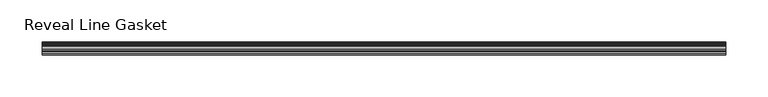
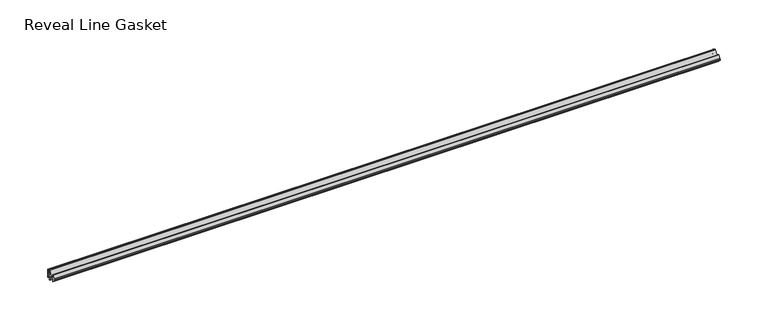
"""IFC4 building model written with IfcOpenShell, lengths in millimetres: proxy geometry, Accessories-Teknion-FHGR-AI_Healthcare-Reveal_Line_Gasket(Horizontal)-R2022 : Reveal Line Gasket."""

from ifc_helpers import new_model, si_unit, point, frame, frame_2d, origin, place, context, project, spatial, polyline, circle_curve, trimmed, segment, composite_curve, outline, extrude, source, transform, mapped, element, save


def reveal_line_gasket_4c97e5b9(model_context):
    return source(origin(), model_context, "Body", "SweptSolid", [
        extrude(outline(composite_curve([segment(polyline([(7.6326998, 1603.2), (7.6326998, 1597.2), (7.4091917, 1596.2445073), (6.8813059, 1595.3115316)]), True, "CONTINUOUS"), segment(trimmed(circle_curve(frame_2d((6.5243141, 1595.5135207)), 0.4101739), [point((6.8813059, 1595.3115316))], [point((6.1246704, 1595.6058653))], False, "CARTESIAN"), True, "CONTINUOUS"), segment(polyline([(6.1246704, 1595.6058653), (6.3626997, 1597.3020914), (6.3626997, 1599.3345473)]), True, "CONTINUOUS"), segment(trimmed(circle_curve(frame_2d((5.6959605, 1598.9180742)), 0.786124), [point((6.3626997, 1599.3345473))], [point((5.0926996, 1599.422125))], True, "CARTESIAN"), True, "CONTINUOUS"), segment(polyline([(5.0926996, 1599.422125), (0.7492996, 1599.422125), (3.7293824, 1594.2604705)]), True, "CONTINUOUS"), segment(trimmed(circle_curve(frame_2d((3.3132479, 1594.1950239)), 0.4212495), [point((3.7293824, 1594.2604705))], [point((3.0485022, 1593.8673642))], False, "CARTESIAN"), True, "CONTINUOUS"), segment(polyline([(3.0485022, 1593.8673642), (-0.5742594, 1599.422125), (-4.8262978, 1599.422125), (-3.1660374, 1596.5464703)]), True, "CONTINUOUS"), segment(trimmed(circle_curve(frame_2d((-3.5978728, 1596.4881145)), 0.4357605), [point((-3.1660374, 1596.5464703))], [point((-3.864328, 1596.1433119))], False, "CARTESIAN"), True, "CONTINUOUS"), segment(polyline([(-3.864328, 1596.1433119), (-6.1944059, 1599.422125), (-7.6326998, 1599.422125), (-7.6326998, 1600.977875), (-6.1944059, 1600.977875), (-3.864328, 1604.2566881)]), True, "CONTINUOUS"), segment(trimmed(circle_curve(frame_2d((-3.5978728, 1603.9118855)), 0.4357605), [point((-3.864328, 1604.2566881))], [point((-3.1660374, 1603.8535297))], False, "CARTESIAN"), True, "CONTINUOUS"), segment(polyline([(-3.1660374, 1603.8535297), (-4.8262978, 1600.977875), (-0.5742594, 1600.977875), (3.0485022, 1606.5326358)]), True, "CONTINUOUS"), segment(trimmed(circle_curve(frame_2d((3.3132479, 1606.2049761)), 0.4212495), [point((3.0485022, 1606.5326358))], [point((3.7293824, 1606.1395295))], False, "CARTESIAN"), True, "CONTINUOUS"), segment(polyline([(3.7293824, 1606.1395295), (0.7492996, 1600.977875), (5.0926996, 1600.977875)]), True, "CONTINUOUS"), segment(trimmed(circle_curve(frame_2d((5.6959605, 1601.4819258)), 0.786124), [point((5.0926996, 1600.977875))], [point((6.3626997, 1601.0654527))], True, "CARTESIAN"), True, "CONTINUOUS"), segment(polyline([(6.3626997, 1601.0654527), (6.3626997, 1603.0979086), (6.1246704, 1604.7941347)]), True, "CONTINUOUS"), segment(trimmed(circle_curve(frame_2d((6.5243141, 1604.8864793)), 0.4101739), [point((6.1246704, 1604.7941347))], [point((6.8813059, 1605.0884684))], False, "CARTESIAN"), True, "CONTINUOUS"), segment(polyline([(6.8813059, 1605.0884684), (7.4091917, 1604.1554927), (7.6326998, 1603.2)]), True, "CONTINUOUS")], self_intersect=False)), frame((-404.5204, 0.0, 0.0), z_axis=(1.0, 0.0, 0.0), x_axis=(0.0, 1.0, 0.0)), (0.0, 0.0, 1.0), 809.0408),
    ])


if __name__ == "__main__":
    model = new_model("IFC4")
    model_context = context("Model", 3, world=origin())
    ifc_project = project(units=[si_unit("LENGTHUNIT", "METRE", prefix="MILLI")], contexts=[model_context])
    site = spatial("IfcSite", under=ifc_project)
    building = spatial("IfcBuilding", under=site)
    placement = place(None, origin())
    reveal_line_gasket_shape = reveal_line_gasket_4c97e5b9(model_context)
    element("IfcBuildingElementProxy", 1, Name="Accessories-Teknion-FHGR-AI_Healthcare-Reveal_Line_Gasket(Horizontal)-R2022 : Reveal Line Gasket", ObjectType="Accessories-Teknion-FHGR-AI_Healthcare-Reveal_Line_Gasket(Horizontal)-R2022 : Reveal Line Gasket", at=placement, inside=building, context=model_context, shape_type="MappedRepresentation", body=[
        mapped(reveal_line_gasket_shape, transform((0.0, 0.0, 0.0), x_axis=(1.0, 0.0, 0.0), y_axis=(0.0, 1.0, 0.0), z_axis=(0.0, 0.0, 1.0))),
    ])
    save(model, "model.ifc")
